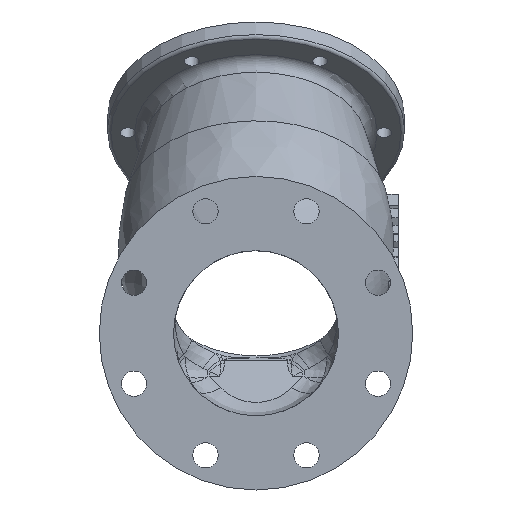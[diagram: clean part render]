
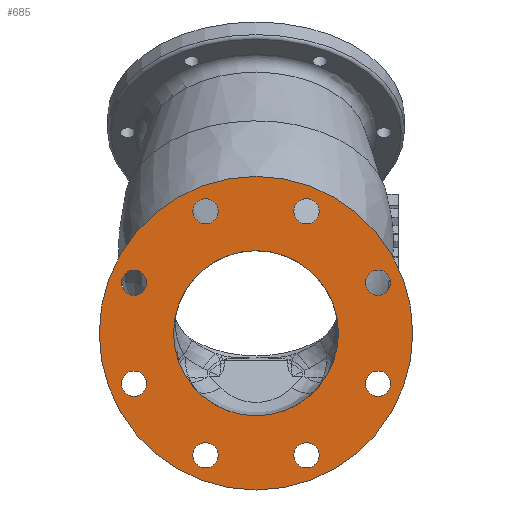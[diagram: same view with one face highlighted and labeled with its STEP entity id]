
A CAD part, front view. The second image highlights one B-rep face of the part: STEP entity #685.
In plain terms, the highlighted planar face has unit normal (0, -1, 0).
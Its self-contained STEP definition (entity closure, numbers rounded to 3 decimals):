
#685 = ADVANCED_FACE( '', ( #1456, #1457, #1458, #1459, #1460, #1461, #1462, #1463, #1464, #1465 ), #1466, .F. );
#1456 = FACE_BOUND( '', #13310, .T. );
#1457 = FACE_BOUND( '', #13311, .T. );
#1458 = FACE_BOUND( '', #13312, .T. );
#1459 = FACE_BOUND( '', #13313, .T. );
#1460 = FACE_BOUND( '', #13314, .T. );
#1461 = FACE_OUTER_BOUND( '', #13315, .T. );
#1462 = FACE_BOUND( '', #13316, .T. );
#1463 = FACE_BOUND( '', #13317, .T. );
#1464 = FACE_BOUND( '', #13318, .T. );
#1465 = FACE_BOUND( '', #13319, .T. );
#1466 = PLANE( '', #13320 );
#13310 = EDGE_LOOP( '', ( #15220 ) );
#13311 = EDGE_LOOP( '', ( #15221 ) );
#13312 = EDGE_LOOP( '', ( #15222 ) );
#13313 = EDGE_LOOP( '', ( #15223 ) );
#13314 = EDGE_LOOP( '', ( #15224 ) );
#13315 = EDGE_LOOP( '', ( #15225 ) );
#13316 = EDGE_LOOP( '', ( #15226 ) );
#13317 = EDGE_LOOP( '', ( #15227 ) );
#13318 = EDGE_LOOP( '', ( #15228 ) );
#13319 = EDGE_LOOP( '', ( #15229 ) );
#13320 = AXIS2_PLACEMENT_3D( '', #15230, #15231, #15232 );
#15220 = ORIENTED_EDGE( '', *, *, #15537, .F. );
#15221 = ORIENTED_EDGE( '', *, *, #15428, .F. );
#15222 = ORIENTED_EDGE( '', *, *, #15575, .F. );
#15223 = ORIENTED_EDGE( '', *, *, #15810, .F. );
#15224 = ORIENTED_EDGE( '', *, *, #15774, .F. );
#15225 = ORIENTED_EDGE( '', *, *, #15899, .F. );
#15226 = ORIENTED_EDGE( '', *, *, #15733, .F. );
#15227 = ORIENTED_EDGE( '', *, *, #15875, .F. );
#15228 = ORIENTED_EDGE( '', *, *, #15702, .F. );
#15229 = ORIENTED_EDGE( '', *, *, #15425, .F. );
#15230 = CARTESIAN_POINT( '', ( 0., 0., 0. ) );
#15231 = DIRECTION( '', ( 0., 1., 0. ) );
#15232 = DIRECTION( '', ( 0., 0., 1. ) );
#15425 = EDGE_CURVE( '', #16287, #16287, #16288, .F. );
#15428 = EDGE_CURVE( '', #16292, #16292, #16293, .F. );
#15537 = EDGE_CURVE( '', #16465, #16465, #16466, .F. );
#15575 = EDGE_CURVE( '', #16524, #16524, #16525, .F. );
#15702 = EDGE_CURVE( '', #16701, #16701, #16702, .F. );
#15733 = EDGE_CURVE( '', #16742, #16742, #16743, .F. );
#15774 = EDGE_CURVE( '', #16799, #16799, #16800, .F. );
#15810 = EDGE_CURVE( '', #16843, #16843, #16844, .F. );
#15875 = EDGE_CURVE( '', #16927, #16927, #16928, .F. );
#15899 = EDGE_CURVE( '', #16956, #16956, #16957, .T. );
#16287 = VERTEX_POINT( '', #18912 );
#16288 = CIRCLE( '', #18913, 11.5 );
#16292 = VERTEX_POINT( '', #18917 );
#16293 = CIRCLE( '', #18918, 11.5 );
#16465 = VERTEX_POINT( '', #20647 );
#16466 = CIRCLE( '', #20648, 11.5 );
#16524 = VERTEX_POINT( '', #21090 );
#16525 = CIRCLE( '', #21091, 11.5 );
#16701 = VERTEX_POINT( '', #22831 );
#16702 = CIRCLE( '', #22832, 11.5 );
#16742 = VERTEX_POINT( '', #22916 );
#16743 = CIRCLE( '', #22917, 11.5 );
#16799 = VERTEX_POINT( '', #23105 );
#16800 = CIRCLE( '', #23106, 75. );
#16843 = VERTEX_POINT( '', #23397 );
#16844 = CIRCLE( '', #23398, 11.5 );
#16927 = VERTEX_POINT( '', #23793 );
#16928 = CIRCLE( '', #23794, 11.5 );
#16956 = VERTEX_POINT( '', #23854 );
#16957 = CIRCLE( '', #23855, 142.5 );
#18912 = CARTESIAN_POINT( '', ( -45.922, 0., 122.366 ) );
#18913 = AXIS2_PLACEMENT_3D( '', #24234, #24235, #24236 );
#18917 = CARTESIAN_POINT( '', ( -45.922, 0., -99.366 ) );
#18918 = AXIS2_PLACEMENT_3D( '', #24240, #24241, #24242 );
#20647 = CARTESIAN_POINT( '', ( -110.866, 0., 57.422 ) );
#20648 = AXIS2_PLACEMENT_3D( '', #24311, #24312, #24313 );
#21090 = CARTESIAN_POINT( '', ( 110.866, 0., -34.422 ) );
#21091 = AXIS2_PLACEMENT_3D( '', #24339, #24340, #24341 );
#22831 = CARTESIAN_POINT( '', ( -110.866, 0., -34.422 ) );
#22832 = AXIS2_PLACEMENT_3D( '', #24440, #24441, #24442 );
#22916 = CARTESIAN_POINT( '', ( 110.866, 0., 57.422 ) );
#22917 = AXIS2_PLACEMENT_3D( '', #24474, #24475, #24476 );
#23105 = CARTESIAN_POINT( '', ( 0., 0., 75. ) );
#23106 = AXIS2_PLACEMENT_3D( '', #24519, #24520, #24521 );
#23397 = CARTESIAN_POINT( '', ( 45.922, 0., 122.366 ) );
#23398 = AXIS2_PLACEMENT_3D( '', #24552, #24553, #24554 );
#23793 = CARTESIAN_POINT( '', ( 45.922, 0., -99.366 ) );
#23794 = AXIS2_PLACEMENT_3D( '', #24633, #24634, #24635 );
#23854 = CARTESIAN_POINT( '', ( 142.5, 0., 0. ) );
#23855 = AXIS2_PLACEMENT_3D( '', #24653, #24654, #24655 );
#24234 = CARTESIAN_POINT( '', ( -45.922, 0., 110.866 ) );
#24235 = DIRECTION( '', ( 0., 1., 0. ) );
#24236 = DIRECTION( '', ( 0., 0., 1. ) );
#24240 = CARTESIAN_POINT( '', ( -45.922, 0., -110.866 ) );
#24241 = DIRECTION( '', ( 0., 1., 0. ) );
#24242 = DIRECTION( '', ( 0., 0., 1. ) );
#24311 = CARTESIAN_POINT( '', ( -110.866, 0., 45.922 ) );
#24312 = DIRECTION( '', ( 0., 1., 0. ) );
#24313 = DIRECTION( '', ( 0., 0., 1. ) );
#24339 = CARTESIAN_POINT( '', ( 110.866, 0., -45.922 ) );
#24340 = DIRECTION( '', ( 0., 1., 0. ) );
#24341 = DIRECTION( '', ( 0., 0., 1. ) );
#24440 = CARTESIAN_POINT( '', ( -110.866, 0., -45.922 ) );
#24441 = DIRECTION( '', ( 0., 1., 0. ) );
#24442 = DIRECTION( '', ( 0., 0., 1. ) );
#24474 = CARTESIAN_POINT( '', ( 110.866, 0., 45.922 ) );
#24475 = DIRECTION( '', ( 0., 1., 0. ) );
#24476 = DIRECTION( '', ( 0., 0., 1. ) );
#24519 = CARTESIAN_POINT( '', ( 0., 0., 0. ) );
#24520 = DIRECTION( '', ( 0., 1., 0. ) );
#24521 = DIRECTION( '', ( 0., 0., 1. ) );
#24552 = CARTESIAN_POINT( '', ( 45.922, 0., 110.866 ) );
#24553 = DIRECTION( '', ( 0., 1., 0. ) );
#24554 = DIRECTION( '', ( 0., 0., 1. ) );
#24633 = CARTESIAN_POINT( '', ( 45.922, 0., -110.866 ) );
#24634 = DIRECTION( '', ( 0., 1., 0. ) );
#24635 = DIRECTION( '', ( 0., 0., 1. ) );
#24653 = CARTESIAN_POINT( '', ( 0., 0., 0. ) );
#24654 = DIRECTION( '', ( 0., 1., 0. ) );
#24655 = DIRECTION( '', ( 1., 0., 0. ) );
